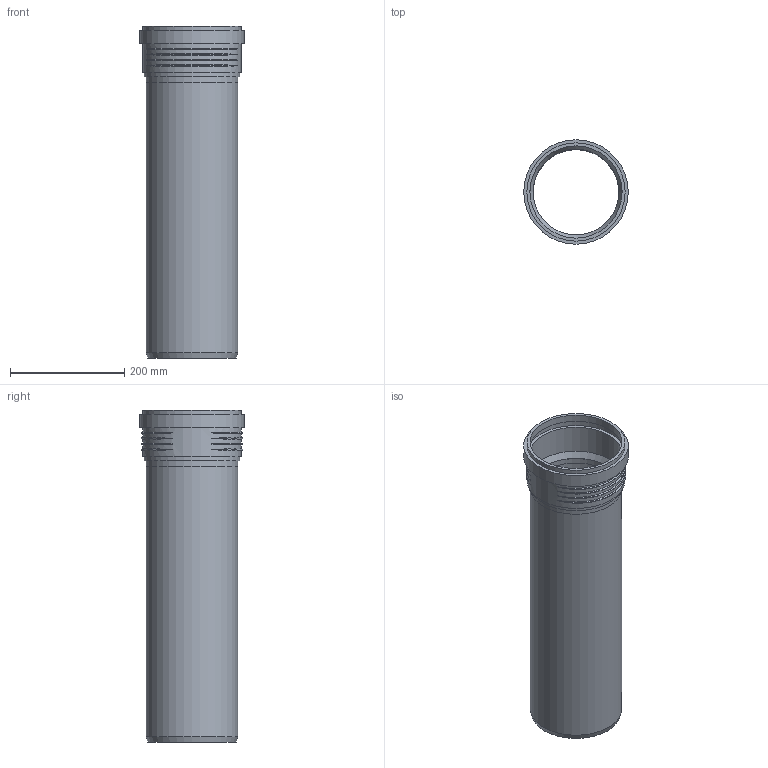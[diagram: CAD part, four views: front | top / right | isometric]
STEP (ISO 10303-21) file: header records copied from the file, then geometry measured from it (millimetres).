
FILE_DESCRIPTION(/* description */ (''),/* implementation_level */ '2;1');
FILE_NAME(/* name */ 'Z:\Geberit\Export\NewStep\390702.stp',/* time_stamp */ '2014-04-02T08:16:22+02:00',/* author */ ('ML'),/* organization */ (''),/* preprocessor_version */ 'ST-DEVELOPER v15.2',/* originating_system */ 'Autodesk Inventor 2014',/* authorisation */ '');
FILE_SCHEMA (('AUTOMOTIVE_DESIGN { 1 0 10303 214 3 1 1 }'));
Length unit declared in the file: millimetre
Products named in the file (3): 861675; 861587ohne; 390702
Bounding box: 182.6 x 182.6 x 580.6 mm (x, y, z)
Volume: 1552741.7 mm3; surface area: 610725.1 mm2
Topology: 2 solids, 2 shells, 47 faces, 104 edges, 71 vertices
Faces by surface type: torus 24, cylinder 11, plane 10, cone 2
Full cylindrical faces by diameter (mm): 149.85 x2, 160.25 x2, 161.4 x2, 166.6 x1, 171.8 x2, 172.2 x1, 182.6 x1
Entity records: 2003 total; most frequent: CARTESIAN_POINT 962, DIRECTION 182, ORIENTED_EDGE 174, AXIS2_PLACEMENT_3D 91, EDGE_CURVE 87, EDGE_LOOP 78, VERTEX_POINT 71, STYLED_ITEM 49
